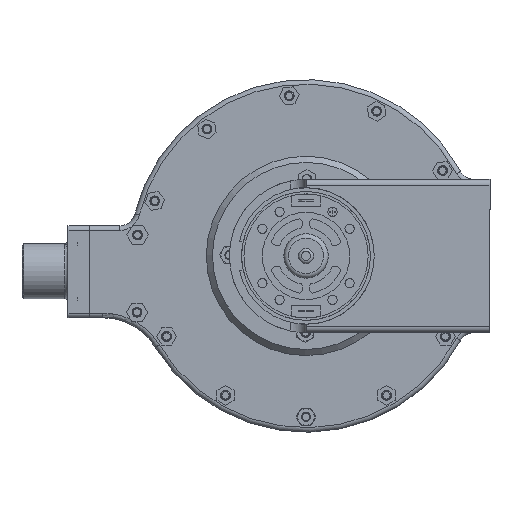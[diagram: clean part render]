
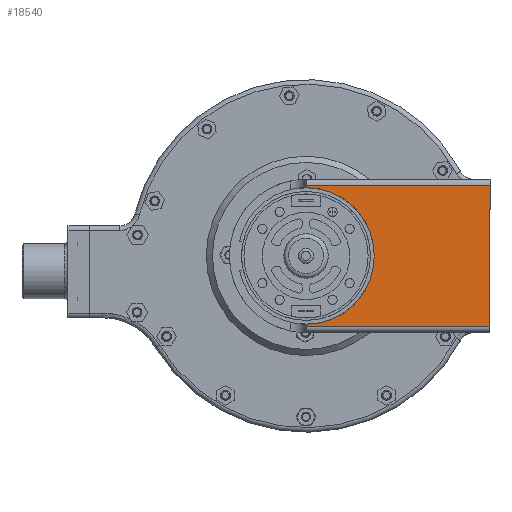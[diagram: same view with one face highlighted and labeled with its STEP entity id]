
A CAD part, front view. The second image highlights one B-rep face of the part: STEP entity #18540.
In plain terms, the highlighted planar face has unit normal (0, -1, 0) as drawn and (0, 0, -1) by its records, which use the part's own axes.
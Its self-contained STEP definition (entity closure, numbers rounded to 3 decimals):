
#2387=LINE('',#37978,#3612);
#2451=LINE('',#38250,#3676);
#2452=LINE('',#38254,#3677);
#2453=LINE('',#38256,#3678);
#2454=LINE('',#38257,#3679);
#3612=VECTOR('',#25417,10.);
#3676=VECTOR('',#25659,10.);
#3677=VECTOR('',#25664,10.);
#3678=VECTOR('',#25665,10.);
#3679=VECTOR('',#25666,10.);
#4241=PLANE('',#20942);
#5203=FACE_OUTER_BOUND('',#6504,.T.);
#6504=EDGE_LOOP('',(#16734,#16735,#16736,#16737,#16738,#16739));
#7863=CIRCLE('',#20911,22.25);
#9402=VERTEX_POINT('',#37975);
#9403=VERTEX_POINT('',#37977);
#9477=VERTEX_POINT('',#38193);
#9494=VERTEX_POINT('',#38249);
#9495=VERTEX_POINT('',#38253);
#9496=VERTEX_POINT('',#38255);
#11838=EDGE_CURVE('',#9403,#9402,#2387,.T.);
#11934=EDGE_CURVE('',#9402,#9477,#7863,.T.);
#11959=EDGE_CURVE('',#9403,#9494,#2451,.T.);
#11961=EDGE_CURVE('',#9477,#9495,#2452,.T.);
#11962=EDGE_CURVE('',#9496,#9495,#2453,.T.);
#11963=EDGE_CURVE('',#9496,#9494,#2454,.T.);
#16734=ORIENTED_EDGE('',*,*,#11959,.F.);
#16735=ORIENTED_EDGE('',*,*,#11838,.T.);
#16736=ORIENTED_EDGE('',*,*,#11934,.T.);
#16737=ORIENTED_EDGE('',*,*,#11961,.T.);
#16738=ORIENTED_EDGE('',*,*,#11962,.F.);
#16739=ORIENTED_EDGE('',*,*,#11963,.T.);
#18540=ADVANCED_FACE('',(#5203),#4241,.T.);
#20911=AXIS2_PLACEMENT_3D('',#38195,#25591,#25592);
#20942=AXIS2_PLACEMENT_3D('',#38252,#25662,#25663);
#25417=DIRECTION('',(1.,0.,0.));
#25591=DIRECTION('center_axis',(0.,0.,1.));
#25592=DIRECTION('ref_axis',(1.,0.,0.));
#25659=DIRECTION('',(0.,-1.,0.));
#25662=DIRECTION('center_axis',(0.,0.,-1.));
#25663=DIRECTION('ref_axis',(-1.,0.,0.));
#25664=DIRECTION('',(1.,0.,0.));
#25665=DIRECTION('',(0.,1.,0.));
#25666=DIRECTION('',(-1.,0.,0.));
#37975=CARTESIAN_POINT('',(-22.25,0.,-40.));
#37977=CARTESIAN_POINT('',(-23.,0.,-40.));
#37978=CARTESIAN_POINT('',(-25.,0.,-40.));
#38193=CARTESIAN_POINT('',(22.25,0.,-40.));
#38195=CARTESIAN_POINT('Origin',(0.,0.,-40.));
#38249=CARTESIAN_POINT('',(-23.,-60.,-40.));
#38250=CARTESIAN_POINT('',(-23.,-19.146,-40.));
#38252=CARTESIAN_POINT('Origin',(0.,-38.292,
-40.));
#38253=CARTESIAN_POINT('',(23.,0.,-40.));
#38254=CARTESIAN_POINT('',(-25.,0.,-40.));
#38255=CARTESIAN_POINT('',(23.,-60.,-40.));
#38256=CARTESIAN_POINT('',(23.,-49.146,-40.));
#38257=CARTESIAN_POINT('',(25.,-60.,-40.));
